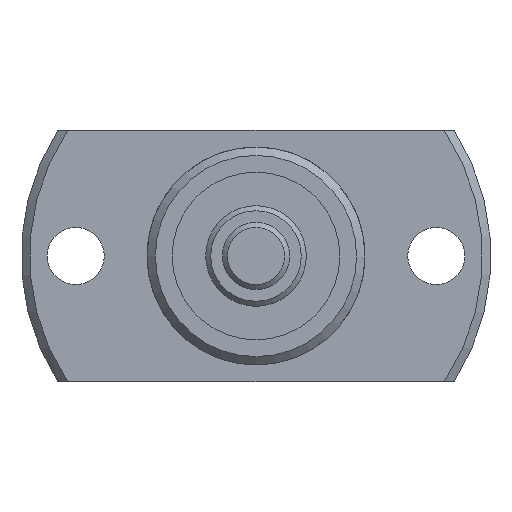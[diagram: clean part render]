
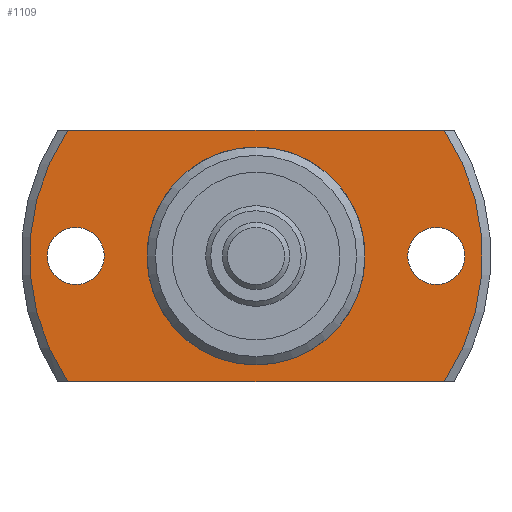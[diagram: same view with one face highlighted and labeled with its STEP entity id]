
A CAD part, left-side view. The second image highlights one B-rep face of the part: STEP entity #1109.
In plain terms, the highlighted planar face has unit normal (-1, 0, 0).
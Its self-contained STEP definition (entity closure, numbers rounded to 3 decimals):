
#109=LINE('',#1859,#167);
#110=LINE('',#1863,#168);
#167=VECTOR('',#1490,1000.);
#168=VECTOR('',#1493,1000.);
#299=ORIENTED_EDGE('',*,*,#559,.T.);
#300=ORIENTED_EDGE('',*,*,#560,.T.);
#301=ORIENTED_EDGE('',*,*,#548,.F.);
#302=ORIENTED_EDGE('',*,*,#561,.T.);
#303=ORIENTED_EDGE('',*,*,#562,.F.);
#304=ORIENTED_EDGE('',*,*,#563,.T.);
#305=ORIENTED_EDGE('',*,*,#542,.T.);
#542=EDGE_CURVE('',#683,#683,#776,.T.);
#548=EDGE_CURVE('',#688,#689,#779,.T.);
#559=EDGE_CURVE('',#698,#698,#785,.T.);
#560=EDGE_CURVE('',#699,#699,#786,.T.);
#561=EDGE_CURVE('',#688,#700,#109,.T.);
#562=EDGE_CURVE('',#701,#700,#787,.T.);
#563=EDGE_CURVE('',#701,#689,#110,.T.);
#683=VERTEX_POINT('',#1806);
#688=VERTEX_POINT('',#1820);
#689=VERTEX_POINT('',#1822);
#698=VERTEX_POINT('',#1856);
#699=VERTEX_POINT('',#1858);
#700=VERTEX_POINT('',#1860);
#701=VERTEX_POINT('',#1862);
#776=CIRCLE('',#1232,6.3);
#779=CIRCLE('',#1236,13.5);
#785=CIRCLE('',#1247,1.7);
#786=CIRCLE('',#1248,1.7);
#787=CIRCLE('',#1249,13.5);
#869=EDGE_LOOP('',(#299));
#870=EDGE_LOOP('',(#300));
#871=EDGE_LOOP('',(#301,#302,#303,#304));
#872=EDGE_LOOP('',(#305));
#981=FACE_BOUND('',#869,.T.);
#982=FACE_BOUND('',#870,.T.);
#983=FACE_BOUND('',#871,.T.);
#984=FACE_BOUND('',#872,.T.);
#1055=PLANE('',#1246);
#1109=ADVANCED_FACE('',(#981,#982,#983,#984),#1055,.F.);
#1232=AXIS2_PLACEMENT_3D('',#1805,#1452,#1453);
#1236=AXIS2_PLACEMENT_3D('',#1821,#1462,#1463);
#1246=AXIS2_PLACEMENT_3D('',#1854,#1484,#1485);
#1247=AXIS2_PLACEMENT_3D('',#1855,#1486,#1487);
#1248=AXIS2_PLACEMENT_3D('',#1857,#1488,#1489);
#1249=AXIS2_PLACEMENT_3D('',#1861,#1491,#1492);
#1452=DIRECTION('',(1.,0.,0.));
#1453=DIRECTION('',(0.,0.,-1.));
#1462=DIRECTION('',(1.,0.,0.));
#1463=DIRECTION('',(0.,0.,-1.));
#1484=DIRECTION('',(1.,0.,0.));
#1485=DIRECTION('',(0.,0.,-1.));
#1486=DIRECTION('',(1.,0.,0.));
#1487=DIRECTION('',(0.,0.,-1.));
#1488=DIRECTION('',(1.,0.,0.));
#1489=DIRECTION('',(0.,0.,-1.));
#1490=DIRECTION('',(0.,-1.,0.));
#1491=DIRECTION('',(1.,0.,0.));
#1492=DIRECTION('',(0.,0.,-1.));
#1493=DIRECTION('',(0.,1.,0.));
#1805=CARTESIAN_POINT('',(13.,0.,0.));
#1806=CARTESIAN_POINT('',(13.,0.,-6.3));
#1820=CARTESIAN_POINT('',(13.,11.225,-7.5));
#1821=CARTESIAN_POINT('',(13.,0.,0.));
#1822=CARTESIAN_POINT('',(13.,11.225,7.5));
#1854=CARTESIAN_POINT('',(13.,6.3,0.));
#1855=CARTESIAN_POINT('',(13.,-10.75,0.));
#1856=CARTESIAN_POINT('',(13.,-10.75,-1.7));
#1857=CARTESIAN_POINT('',(13.,10.75,0.));
#1858=CARTESIAN_POINT('',(13.,10.75,-1.7));
#1859=CARTESIAN_POINT('',(13.,6.3,-7.5));
#1860=CARTESIAN_POINT('',(13.,-11.225,-7.5));
#1861=CARTESIAN_POINT('',(13.,0.,0.));
#1862=CARTESIAN_POINT('',(13.,-11.225,7.5));
#1863=CARTESIAN_POINT('',(13.,6.3,7.5));
